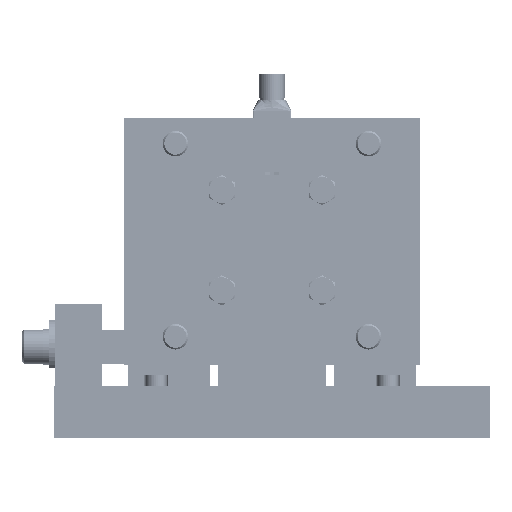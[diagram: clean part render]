
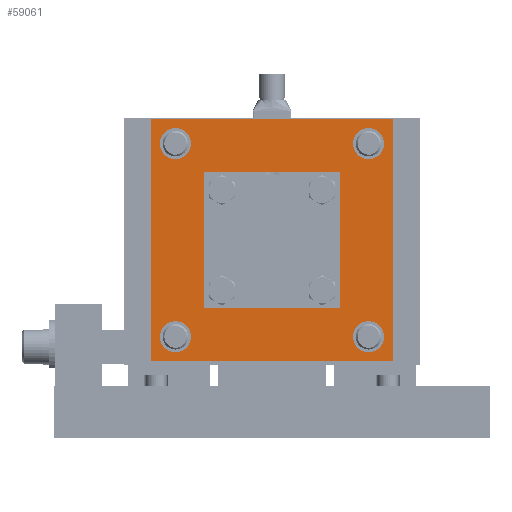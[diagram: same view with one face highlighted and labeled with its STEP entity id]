
A CAD part, front view. The second image highlights one B-rep face of the part: STEP entity #59061.
In plain terms, the highlighted planar face has unit normal (0, -1, 0) as drawn and (0, 0, 1) by its records, which use the part's own axes.
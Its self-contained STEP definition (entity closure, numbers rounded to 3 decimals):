
#6138=LINE($,#162004,#9369);
#6141=LINE($,#162009,#9372);
#6142=LINE($,#162051,#9373);
#6144=LINE($,#162054,#9375);
#9369=VECTOR($,#80513,113.03);
#9372=VECTOR($,#80518,113.03);
#9373=VECTOR($,#80573,113.03);
#9375=VECTOR($,#80577,113.03);
#11014=PLANE($,#65484);
#12809=FACE_BOUND($,#23273,.T.);
#12810=FACE_BOUND($,#23274,.T.);
#12811=FACE_BOUND($,#23275,.T.);
#12812=FACE_BOUND($,#23276,.T.);
#12813=FACE_BOUND($,#23277,.T.);
#12814=FACE_BOUND($,#23278,.T.);
#12815=FACE_BOUND($,#23279,.T.);
#12816=FACE_BOUND($,#23280,.T.);
#12817=FACE_BOUND($,#23281,.T.);
#17790=FACE_OUTER_BOUND($,#23272,.T.);
#23272=EDGE_LOOP($,(#53726,#53727,#53728,#53729));
#23273=EDGE_LOOP($,(#53730));
#23274=EDGE_LOOP($,(#53731));
#23275=EDGE_LOOP($,(#53732));
#23276=EDGE_LOOP($,(#53733));
#23277=EDGE_LOOP($,(#53734));
#23278=EDGE_LOOP($,(#53735));
#23279=EDGE_LOOP($,(#53736));
#23280=EDGE_LOOP($,(#53737));
#23281=EDGE_LOOP($,(#53738));
#25805=CIRCLE($,#65429,7.25);
#25809=CIRCLE($,#65436,7.25);
#25813=CIRCLE($,#65443,7.25);
#25817=CIRCLE($,#65450,7.25);
#25819=CIRCLE($,#65457,22.5);
#25822=CIRCLE($,#65462,6.);
#25825=CIRCLE($,#65468,6.);
#25828=CIRCLE($,#65474,6.);
#25831=CIRCLE($,#65480,6.);
#31218=VERTEX_POINT($,#161953);
#31222=VERTEX_POINT($,#161964);
#31226=VERTEX_POINT($,#161975);
#31230=VERTEX_POINT($,#161986);
#31236=VERTEX_POINT($,#162001);
#31237=VERTEX_POINT($,#162003);
#31238=VERTEX_POINT($,#162007);
#31239=VERTEX_POINT($,#162011);
#31242=VERTEX_POINT($,#162019);
#31245=VERTEX_POINT($,#162028);
#31248=VERTEX_POINT($,#162037);
#31251=VERTEX_POINT($,#162046);
#31252=VERTEX_POINT($,#162050);
#38792=EDGE_CURVE($,#31218,#31218,#25805,.T.);
#38796=EDGE_CURVE($,#31222,#31222,#25809,.T.);
#38800=EDGE_CURVE($,#31226,#31226,#25813,.T.);
#38804=EDGE_CURVE($,#31230,#31230,#25817,.T.);
#38811=EDGE_CURVE($,#31237,#31236,#6138,.T.);
#38814=EDGE_CURVE($,#31236,#31238,#6141,.T.);
#38815=EDGE_CURVE($,#31239,#31239,#25819,.T.);
#38818=EDGE_CURVE($,#31242,#31242,#25822,.T.);
#38821=EDGE_CURVE($,#31245,#31245,#25825,.T.);
#38824=EDGE_CURVE($,#31248,#31248,#25828,.T.);
#38827=EDGE_CURVE($,#31251,#31251,#25831,.T.);
#38828=EDGE_CURVE($,#31252,#31237,#6142,.T.);
#38830=EDGE_CURVE($,#31238,#31252,#6144,.T.);
#53726=ORIENTED_EDGE($,*,*,#38814,.T.);
#53727=ORIENTED_EDGE($,*,*,#38830,.T.);
#53728=ORIENTED_EDGE($,*,*,#38828,.T.);
#53729=ORIENTED_EDGE($,*,*,#38811,.T.);
#53730=ORIENTED_EDGE($,*,*,#38792,.T.);
#53731=ORIENTED_EDGE($,*,*,#38796,.T.);
#53732=ORIENTED_EDGE($,*,*,#38800,.T.);
#53733=ORIENTED_EDGE($,*,*,#38804,.T.);
#53734=ORIENTED_EDGE($,*,*,#38815,.T.);
#53735=ORIENTED_EDGE($,*,*,#38818,.T.);
#53736=ORIENTED_EDGE($,*,*,#38821,.T.);
#53737=ORIENTED_EDGE($,*,*,#38824,.T.);
#53738=ORIENTED_EDGE($,*,*,#38827,.T.);
#59061=ADVANCED_FACE($,(#17790,#12809,#12810,#12811,#12812,#12813,#12814,
#12815,#12816,#12817),#11014,.T.);
#65429=AXIS2_PLACEMENT_3D($,#161954,#80456,#80457);
#65436=AXIS2_PLACEMENT_3D($,#161965,#80470,#80471);
#65443=AXIS2_PLACEMENT_3D($,#161976,#80484,#80485);
#65450=AXIS2_PLACEMENT_3D($,#161987,#80498,#80499);
#65457=AXIS2_PLACEMENT_3D($,#162012,#80521,#80522);
#65462=AXIS2_PLACEMENT_3D($,#162020,#80531,#80532);
#65468=AXIS2_PLACEMENT_3D($,#162029,#80543,#80544);
#65474=AXIS2_PLACEMENT_3D($,#162038,#80555,#80556);
#65480=AXIS2_PLACEMENT_3D($,#162047,#80567,#80568);
#65484=AXIS2_PLACEMENT_3D($,#162055,#80578,#80579);
#80456=DIRECTION('center_axis',(0.,0.,-1.));
#80457=DIRECTION('ref_axis',(1.,0.,0.));
#80470=DIRECTION('center_axis',(0.,0.,-1.));
#80471=DIRECTION('ref_axis',(1.,0.,0.));
#80484=DIRECTION('center_axis',(0.,0.,-1.));
#80485=DIRECTION('ref_axis',(1.,0.,0.));
#80498=DIRECTION('center_axis',(0.,0.,-1.));
#80499=DIRECTION('ref_axis',(1.,0.,0.));
#80513=DIRECTION($,(0.,1.,0.));
#80518=DIRECTION($,(-1.,0.,0.));
#80521=DIRECTION('center_axis',(0.,0.,-1.));
#80522=DIRECTION('ref_axis',(-1.,0.,0.));
#80531=DIRECTION('center_axis',(0.,0.,-1.));
#80532=DIRECTION('ref_axis',(1.,0.,0.));
#80543=DIRECTION('center_axis',(0.,0.,-1.));
#80544=DIRECTION('ref_axis',(1.,0.,0.));
#80555=DIRECTION('center_axis',(0.,0.,-1.));
#80556=DIRECTION('ref_axis',(1.,0.,0.));
#80567=DIRECTION('center_axis',(0.,0.,-1.));
#80568=DIRECTION('ref_axis',(1.,0.,0.));
#80573=DIRECTION($,(1.,0.,0.));
#80577=DIRECTION($,(0.,-1.,0.));
#80578=DIRECTION('center_axis',(0.,0.,1.));
#80579=DIRECTION('ref_axis',(1.,0.,0.));
#161953=CARTESIAN_POINT('',(52.25,-45.,40.));
#161954=CARTESIAN_POINT('Origin',(45.,-45.,40.));
#161964=CARTESIAN_POINT('',(-37.75,45.,40.));
#161965=CARTESIAN_POINT('Origin',(-45.,45.,40.));
#161975=CARTESIAN_POINT('',(52.25,45.,40.));
#161976=CARTESIAN_POINT('Origin',(45.,45.,40.));
#161986=CARTESIAN_POINT('',(-37.75,-45.,40.));
#161987=CARTESIAN_POINT('Origin',(-45.,-45.,40.));
#162001=CARTESIAN_POINT('',(56.515,56.515,40.));
#162003=CARTESIAN_POINT('',(56.515,-56.515,40.));
#162004=CARTESIAN_POINT($,(56.515,56.515,40.));
#162007=CARTESIAN_POINT('',(-56.515,56.515,40.));
#162009=CARTESIAN_POINT($,(-56.515,56.515,40.));
#162011=CARTESIAN_POINT('',(22.5,0.,40.));
#162012=CARTESIAN_POINT('Origin',(0.,0.,40.));
#162019=CARTESIAN_POINT('',(29.368,-23.368,40.));
#162020=CARTESIAN_POINT('Origin',(23.368,-23.368,40.));
#162028=CARTESIAN_POINT('',(-17.368,23.368,40.));
#162029=CARTESIAN_POINT('Origin',(-23.368,23.368,40.));
#162037=CARTESIAN_POINT('',(29.368,23.368,40.));
#162038=CARTESIAN_POINT('Origin',(23.368,23.368,40.));
#162046=CARTESIAN_POINT('',(-17.368,-23.368,40.));
#162047=CARTESIAN_POINT('Origin',(-23.368,-23.368,40.));
#162050=CARTESIAN_POINT('',(-56.515,-56.515,40.));
#162051=CARTESIAN_POINT($,(56.515,-56.515,40.));
#162054=CARTESIAN_POINT($,(-56.515,-56.515,40.));
#162055=CARTESIAN_POINT('Origin',(0.,0.,40.));
